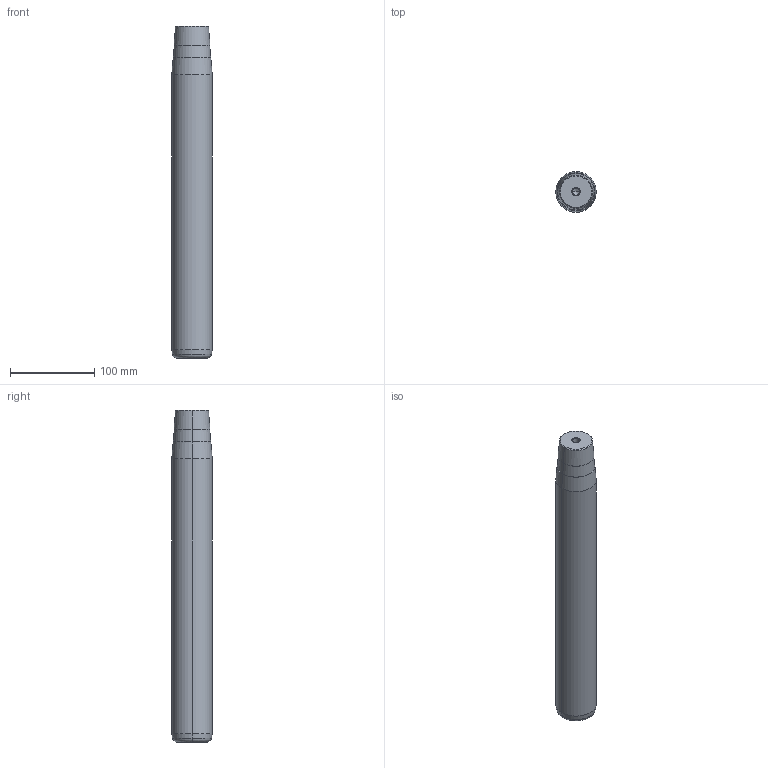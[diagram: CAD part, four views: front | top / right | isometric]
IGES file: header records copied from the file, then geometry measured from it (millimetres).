
Start section: START RECORD GO HERE.
Global section: file name: 722-48x355x395.igs; native system: DASSAULT SYSTEMES CATIA V5 R20 - www.3ds.com; preprocessor: CATIA Version 5 Release 20 ; author: Utente; organization: NB04-ASUS; date: 20210108.155905; units: millimetre
Bounding box: 48 x 48 x 395 mm (x, y, z)
Surface area: 62699.4 mm2 (no closed solid volume)
Topology: 0 solids, 0 shells, 32 faces, 128 edges, 124 vertices
Faces by surface type: revolution 30, plane 2
